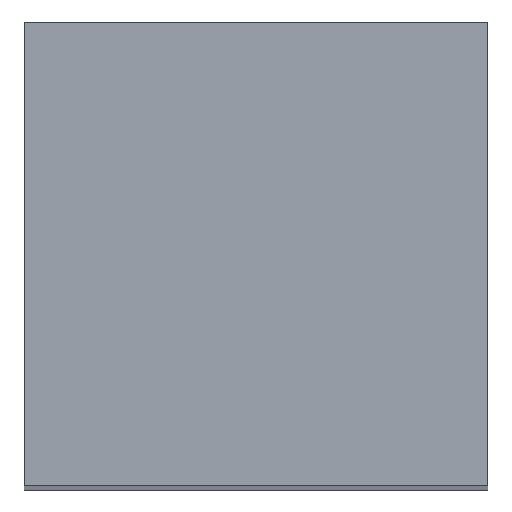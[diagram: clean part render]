
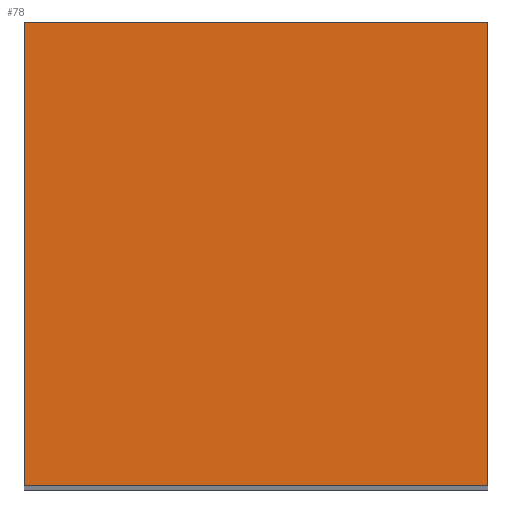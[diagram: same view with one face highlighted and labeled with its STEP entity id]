
A CAD part, top view. The second image highlights one B-rep face of the part: STEP entity #78.
In plain terms, the highlighted planar face has unit normal (0, 0, 1).
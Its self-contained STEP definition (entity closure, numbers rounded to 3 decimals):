
#78 = ADVANCED_FACE( '', ( #99 ), #100, .F. );
#99 = FACE_OUTER_BOUND( '', #138, .T. );
#100 = PLANE( '', #139 );
#138 = EDGE_LOOP( '', ( #189, #190, #191, #192 ) );
#139 = AXIS2_PLACEMENT_3D( '', #193, #194, #195 );
#189 = ORIENTED_EDGE( '', *, *, #258, .T. );
#190 = ORIENTED_EDGE( '', *, *, #263, .T. );
#191 = ORIENTED_EDGE( '', *, *, #266, .T. );
#192 = ORIENTED_EDGE( '', *, *, #267, .T. );
#193 = CARTESIAN_POINT( '', ( -6., -3., 4. ) );
#194 = DIRECTION( '', ( 0., 0., -1. ) );
#195 = DIRECTION( '', ( -1., 0., 0. ) );
#258 = EDGE_CURVE( '', #281, #282, #283, .T. );
#263 = EDGE_CURVE( '', #282, #291, #292, .T. );
#266 = EDGE_CURVE( '', #291, #296, #297, .T. );
#267 = EDGE_CURVE( '', #296, #281, #298, .T. );
#281 = VERTEX_POINT( '', #319 );
#282 = VERTEX_POINT( '', #320 );
#283 = LINE( '', #321, #322 );
#291 = VERTEX_POINT( '', #333 );
#292 = LINE( '', #334, #335 );
#296 = VERTEX_POINT( '', #341 );
#297 = LINE( '', #342, #343 );
#298 = LINE( '', #344, #345 );
#319 = CARTESIAN_POINT( '', ( -6., -3., 4. ) );
#320 = CARTESIAN_POINT( '', ( 0., -3., 4. ) );
#321 = CARTESIAN_POINT( '', ( -6., -3., 4. ) );
#322 = VECTOR( '', #371, 1000. );
#333 = CARTESIAN_POINT( '', ( 0., 3., 4. ) );
#334 = CARTESIAN_POINT( '', ( 0., -3., 4. ) );
#335 = VECTOR( '', #378, 1000. );
#341 = CARTESIAN_POINT( '', ( -6., 3., 4. ) );
#342 = CARTESIAN_POINT( '', ( 0., 3., 4. ) );
#343 = VECTOR( '', #381, 1000. );
#344 = CARTESIAN_POINT( '', ( -6., 3., 4. ) );
#345 = VECTOR( '', #382, 1000. );
#371 = DIRECTION( '', ( 1., 0., 0. ) );
#378 = DIRECTION( '', ( 0., 1., 0. ) );
#381 = DIRECTION( '', ( -1., 0., 0. ) );
#382 = DIRECTION( '', ( 0., -1., 0. ) );
